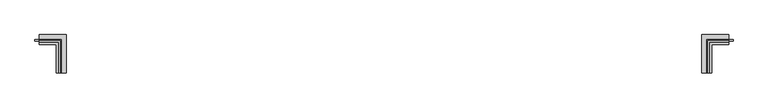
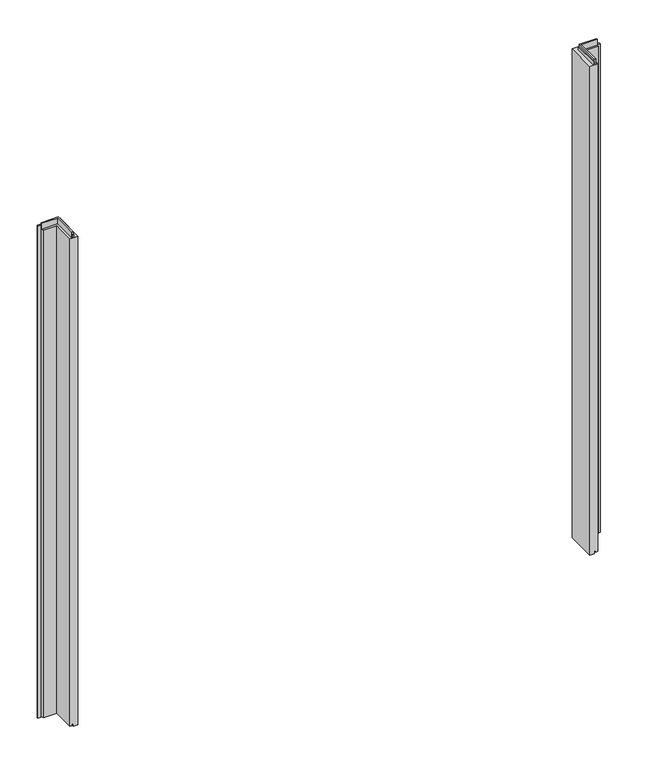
"""IFC4 building model written with IfcOpenShell, lengths in millimetres: plate geometry, Trimo_Qbiss Screen_Wall Opening Trims-HORIZONTAL : HR - B."""

from ifc_helpers import new_model, si_unit, frame, origin, origin_with_axes, place, context, project, spatial, polyline, outline, extrude, faceted_brep, source, transform, mapped, element, save


def plate_1e91bede(model_context):
    return source(origin(), model_context, "Body", "SolidModel", [
        extrude(outline(polyline([(-1735.0, 71.0), (-1735.0, 76.0), (-1625.0, 76.0), (-1625.0, -92.0), (-1630.0, -92.0), (-1630.0, 71.0), (-1735.0, 71.0)])), frame((0.0, 0.0, 3229.8), z_axis=(0.0, 0.0, 1.0), x_axis=(1.0, 0.0, 0.0)), (0.0, 0.0, 1.0), 21.0),
        extrude(outline(polyline([(1629.0, -92.0), (1624.0, -92.0), (1624.0, 76.0), (1735.0, 76.0), (1735.0, 71.0), (1629.0, 71.0), (1629.0, -92.0)])), frame((0.0, 0.0, 3229.8), z_axis=(0.0, 0.0, 1.0), x_axis=(1.0, 0.0, 0.0)), (0.0, 0.0, 1.0), 21.0),
        faceted_brep([(-1735.0, 71.0, 3228.8), (-1735.0, 100.0, 3228.8), (-1735.0, 100.0, 0.0), (-1735.0, 72.0, 0.0), (-1735.0, 72.0, 15.5), (-1735.0, 62.0, 15.5), (-1735.0, 62.0, 7.0), (-1735.0, 50.0, 7.0), (-1735.0, 50.0, 3228.8), (-1735.0, 63.0, 3228.8), (-1735.0, 63.0, 3266.3), (-1735.0, 71.0, 3266.3), (-1629.0, 71.0, 3228.8), (-1629.0, -92.0, 3228.8), (-1600.0, -92.0, 3228.8), (-1600.0, 100.0, 3228.8), (-1600.0, 100.0, 0.0), (-1600.0, -92.0, 0.0), (-1628.0, -92.0, 0.0), (-1628.0, 72.0, 0.0), (-1628.0, 72.0, 15.5), (-1628.0, -92.0, 15.5), (-1638.0, -92.0, 15.5), (-1638.0, 62.0, 15.5), (-1638.0, 62.0, 7.0), (-1638.0, -92.0, 7.0), (-1650.0, -92.0, 7.0), (-1650.0, 50.0, 7.0), (-1650.0, 50.0, 3228.8), (-1650.0, -92.0, 3228.8), (-1637.0, -92.0, 3228.8), (-1637.0, 63.0, 3228.8), (-1637.0, 63.0, 3266.3), (-1637.0, -92.0, 3266.3), (-1629.0, -92.0, 3266.3), (-1629.0, 71.0, 3266.3)], [[[0, 1, 2, 3, 4, 5, 6, 7, 8, 9, 10, 11]], [[1, 0, 12, 13, 14, 15]], [[2, 1, 15, 16]], [[3, 2, 16, 17, 18, 19]], [[4, 3, 19, 20]], [[5, 4, 20, 21, 22, 23]], [[6, 5, 23, 24]], [[7, 6, 24, 25, 26, 27]], [[8, 7, 27, 28]], [[9, 8, 28, 29, 30, 31]], [[10, 9, 31, 32]], [[11, 10, 32, 33, 34, 35]], [[0, 11, 35, 12]], [[13, 34, 33, 30, 29, 26, 25, 22, 21, 18, 17, 14]], [[16, 15, 14, 17]], [[20, 19, 18, 21]], [[24, 23, 22, 25]], [[28, 27, 26, 29]], [[32, 31, 30, 33]], [[12, 35, 34, 13]]]),
        faceted_brep([(1629.0, -92.0, 3228.8), (1600.0, -92.0, 3228.8), (1600.0, -92.0, 0.0), (1628.0, -92.0, 0.0), (1628.0, -92.0, 15.5), (1638.0, -92.0, 15.5), (1638.0, -92.0, 7.0), (1650.0, -92.0, 7.0), (1650.0, -92.0, 3228.8), (1637.0, -92.0, 3228.8), (1637.0, -92.0, 3266.3), (1629.0, -92.0, 3266.3), (1600.0, 100.0, 0.0), (1600.0, 100.0, 3228.8), (1735.0, 100.0, 3228.8), (1735.0, 100.0, 0.0), (1628.0, 72.0, 15.5), (1628.0, 72.0, 0.0), (1735.0, 72.0, 0.0), (1735.0, 72.0, 15.5), (1638.0, 62.0, 7.0), (1638.0, 62.0, 15.5), (1735.0, 62.0, 15.5), (1735.0, 62.0, 7.0), (1650.0, 50.0, 3228.8), (1650.0, 50.0, 7.0), (1735.0, 50.0, 7.0), (1735.0, 50.0, 3228.8), (1637.0, 63.0, 3266.3), (1637.0, 63.0, 3228.8), (1735.0, 63.0, 3228.8), (1735.0, 63.0, 3266.3), (1629.0, 71.0, 3228.8), (1629.0, 71.0, 3266.3), (1735.0, 71.0, 3266.3), (1735.0, 71.0, 3228.8)], [[[0, 1, 2, 3, 4, 5, 6, 7, 8, 9, 10, 11]], [[12, 13, 14, 15]], [[16, 17, 18, 19]], [[20, 21, 22, 23]], [[24, 25, 26, 27]], [[28, 29, 30, 31]], [[32, 33, 34, 35]], [[35, 34, 31, 30, 27, 26, 23, 22, 19, 18, 15, 14]], [[1, 0, 32, 35, 14, 13]], [[2, 1, 13, 12]], [[3, 2, 12, 15, 18, 17]], [[4, 3, 17, 16]], [[5, 4, 16, 19, 22, 21]], [[6, 5, 21, 20]], [[7, 6, 20, 23, 26, 25]], [[8, 7, 25, 24]], [[9, 8, 24, 27, 30, 29]], [[10, 9, 29, 28]], [[11, 10, 28, 31, 34, 33]], [[0, 11, 33, 32]]]),
        extrude(outline(polyline([(1738.0, 76.5978162), (1757.0, 76.5978162), (1757.0, 67.8978162), (1738.0, 67.8978162), (1738.0, 76.5978162)])), origin_with_axes(), (0.0, 0.0, 1.0), 3228.8),
        extrude(outline(polyline([(-1738.0, 76.5978162), (-1738.0, 67.8978162), (-1757.0, 67.8978162), (-1757.0, 76.5978162), (-1738.0, 76.5978162)])), origin_with_axes(), (0.0, 0.0, 1.0), 3251.8),
    ])


if __name__ == "__main__":
    model = new_model("IFC4")
    model_context = context("Model", 3, world=origin())
    ifc_project = project(units=[si_unit("LENGTHUNIT", "METRE", prefix="MILLI")], contexts=[model_context])
    site = spatial("IfcSite", under=ifc_project)
    building = spatial("IfcBuilding", under=site)
    placement = place(None, origin())
    plate_shape = plate_1e91bede(model_context)
    element("IfcPlate", 1, ObjectType="Trimo_Qbiss Screen_Wall Opening Trims-HORIZONTAL : HR - B", at=placement, inside=building, context=model_context, shape_type="MappedRepresentation", body=[
        mapped(plate_shape, transform((0.0, 0.0, 0.0), x_axis=(1.0, 0.0, 0.0), y_axis=(0.0, 1.0, 0.0), z_axis=(0.0, 0.0, 1.0))),
    ])
    save(model, "model.ifc")
